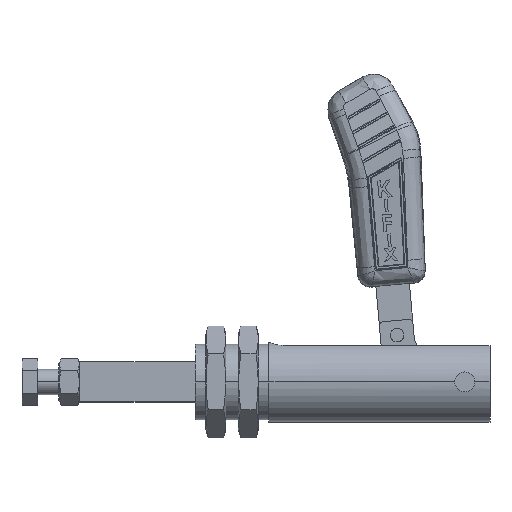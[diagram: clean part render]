
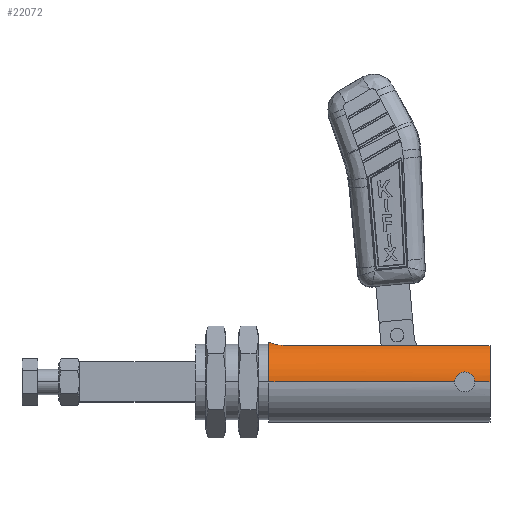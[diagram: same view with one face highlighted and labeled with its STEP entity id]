
A CAD part, top view. The second image highlights one B-rep face of the part: STEP entity #22072.
In plain terms, the highlighted cylindrical face has radius 19.05 mm (diameter 38.1 mm), a partial arc.
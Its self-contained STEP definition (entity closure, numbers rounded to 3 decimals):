
#20 = FACE_OUTER_BOUND ( 'NONE', #3455, .T. ) ;
#51 = CARTESIAN_POINT ( 'NONE',  ( 34.714, 18.732, -3.554 ) ) ;
#133 = CARTESIAN_POINT ( 'NONE',  ( 29.543, 17.405, -7.745 ) ) ;
#659 = B_SPLINE_CURVE_WITH_KNOTS ( 'NONE', 3,
 ( #3651, #51, #3816, #16805, #5683, #18680, #7548, #20524, #9419, #22415, #11287, #133, #13143, #2025, #15015, #3899 ),
 .UNSPECIFIED., .F., .F.,
 ( 4, 2, 2, 2, 2, 2, 2, 4 ),
 ( 0., 0.002, 0.004, 0.005, 0.006, 0.007, 0.009, 0.01 ),
 .UNSPECIFIED. ) ;
#682 = CARTESIAN_POINT ( 'NONE',  ( -56.707, 3.794, -18.669 ) ) ;
#765 = CARTESIAN_POINT ( 'NONE',  ( -61.179, 2.441, -18.894 ) ) ;
#993 = DIRECTION ( 'NONE',  ( 0., 0., 1. ) ) ;
#1128 = CIRCLE ( 'NONE', #18743, 19.05 ) ;
#1183 = LINE ( 'NONE', #22743, #15401 ) ;
#1243 = CYLINDRICAL_SURFACE ( 'NONE', #23967, 19.05 ) ;
#1316 = CARTESIAN_POINT ( 'NONE',  ( -70., 17.289, -8. ) ) ;
#1957 = CARTESIAN_POINT ( 'NONE',  ( -54., 0., -19.05 ) ) ;
#2025 = CARTESIAN_POINT ( 'NONE',  ( 28.326, 17.304, -7.968 ) ) ;
#2310 = LINE ( 'NONE', #19500, #11634 ) ;
#2334 = EDGE_CURVE ( 'NONE', #4530, #15433, #14905, .T. ) ;
#2480 = CARTESIAN_POINT ( 'NONE',  ( -54.026, 0.526, -19.044 ) ) ;
#2558 = CARTESIAN_POINT ( 'NONE',  ( -57.477, 3.974, -18.631 ) ) ;
#2652 = CARTESIAN_POINT ( 'NONE',  ( -61.595, 1.774, -18.969 ) ) ;
#3334 = CARTESIAN_POINT ( 'NONE',  ( -70., 0., 0. ) ) ;
#3455 = EDGE_LOOP ( 'NONE', ( #17742, #18444, #14123, #17258, #23441, #23804, #18719 ) ) ;
#3651 = CARTESIAN_POINT ( 'NONE',  ( 35., 18.845, -2.784 ) ) ;
#3816 = CARTESIAN_POINT ( 'NONE',  ( 34.322, 18.58, -4.255 ) ) ;
#3899 = CARTESIAN_POINT ( 'NONE',  ( 27.5, 17.289, -8. ) ) ;
#3900 = EDGE_CURVE ( 'NONE', #15433, #10300, #21560, .T. ) ;
#4337 = CARTESIAN_POINT ( 'NONE',  ( -54.205, 1.292, -19.008 ) ) ;
#4418 = CARTESIAN_POINT ( 'NONE',  ( -58.26, 4., -18.625 ) ) ;
#4494 = CARTESIAN_POINT ( 'NONE',  ( -61.871, 1.041, -19.023 ) ) ;
#4530 = VERTEX_POINT ( 'NONE', #5743 ) ;
#5212 = DIRECTION ( 'NONE',  ( 0., 0., 1. ) ) ;
#5683 = CARTESIAN_POINT ( 'NONE',  ( 33.31, 18.237, -5.514 ) ) ;
#5743 = CARTESIAN_POINT ( 'NONE',  ( 35., 18.845, -2.784 ) ) ;
#6230 = CARTESIAN_POINT ( 'NONE',  ( -54.529, 2.006, -18.945 ) ) ;
#6306 = CARTESIAN_POINT ( 'NONE',  ( -59.04, 3.871, -18.653 ) ) ;
#6389 = CARTESIAN_POINT ( 'NONE',  ( -62., 0.261, -19.05 ) ) ;
#6492 = CARTESIAN_POINT ( 'NONE',  ( -62., 0., -19.05 ) ) ;
#7008 = EDGE_CURVE ( 'NONE', #13570, #17572, #2310, .T. ) ;
#7323 = EDGE_CURVE ( 'NONE', #4530, #13570, #659, .T. ) ;
#7548 = CARTESIAN_POINT ( 'NONE',  ( 32.422, 17.973, -6.319 ) ) ;
#8080 = CARTESIAN_POINT ( 'NONE',  ( -54.988, 2.645, -18.866 ) ) ;
#8161 = CARTESIAN_POINT ( 'NONE',  ( -59.775, 3.594, -18.708 ) ) ;
#8853 = EDGE_CURVE ( 'NONE', #17572, #9091, #1128, .T. ) ;
#9091 = VERTEX_POINT ( 'NONE', #16979 ) ;
#9339 = CARTESIAN_POINT ( 'NONE',  ( 27.5, 17.289, -8. ) ) ;
#9419 = CARTESIAN_POINT ( 'NONE',  ( 31.412, 17.722, -6.99 ) ) ;
#9735 = DIRECTION ( 'NONE',  ( -1., 0., 0. ) ) ;
#9944 = CARTESIAN_POINT ( 'NONE',  ( -55.557, 3.178, -18.784 ) ) ;
#10027 = CARTESIAN_POINT ( 'NONE',  ( -60.44, 3.18, -18.783 ) ) ;
#10300 = VERTEX_POINT ( 'NONE', #1957 ) ;
#10905 = DIRECTION ( 'NONE',  ( -1., 0., 0. ) ) ;
#11287 = CARTESIAN_POINT ( 'NONE',  ( 30.316, 17.512, -7.499 ) ) ;
#11634 = VECTOR ( 'NONE', #21360, 1000. ) ;
#11647 = CARTESIAN_POINT ( 'NONE',  ( -70., 0., -19.05 ) ) ;
#11836 = CARTESIAN_POINT ( 'NONE',  ( -56.226, 3.595, -18.708 ) ) ;
#11918 = CARTESIAN_POINT ( 'NONE',  ( -61.015, 2.642, -18.867 ) ) ;
#13143 = CARTESIAN_POINT ( 'NONE',  ( 29.142, 17.362, -7.841 ) ) ;
#13570 = VERTEX_POINT ( 'NONE', #9339 ) ;
#13679 = CARTESIAN_POINT ( 'NONE',  ( -56.96, 3.871, -18.653 ) ) ;
#13734 = EDGE_CURVE ( 'NONE', #23338, #9091, #1183, .T. ) ;
#13762 = CARTESIAN_POINT ( 'NONE',  ( -61.469, 2.008, -18.945 ) ) ;
#13966 = CARTESIAN_POINT ( 'NONE',  ( -70., 0., 0. ) ) ;
#14123 = ORIENTED_EDGE ( 'NONE', *, *, #18074, .T. ) ;
#14905 = CIRCLE ( 'NONE', #23085, 19.05 ) ;
#15015 = CARTESIAN_POINT ( 'NONE',  ( 27.915, 17.289, -8. ) ) ;
#15184 = CARTESIAN_POINT ( 'NONE',  ( 35., 0., -19.05 ) ) ;
#15388 = CARTESIAN_POINT ( 'NONE',  ( -54., 0., -19.05 ) ) ;
#15401 = VECTOR ( 'NONE', #9735, 1000. ) ;
#15433 = VERTEX_POINT ( 'NONE', #15184 ) ;
#15471 = CARTESIAN_POINT ( 'NONE',  ( -54.128, 1.038, -19.023 ) ) ;
#15553 = CARTESIAN_POINT ( 'NONE',  ( -57.737, 4., -18.625 ) ) ;
#15629 = CARTESIAN_POINT ( 'NONE',  ( -61.795, 1.291, -19.008 ) ) ;
#15836 = DIRECTION ( 'NONE',  ( -1., 0., 0. ) ) ;
#16344 = DIRECTION ( 'NONE',  ( -1., 0., 0. ) ) ;
#16622 = VECTOR ( 'NONE', #17244, 1000. ) ;
#16805 = CARTESIAN_POINT ( 'NONE',  ( 33.582, 18.326, -5.213 ) ) ;
#16979 = CARTESIAN_POINT ( 'NONE',  ( -70., 0., -19.05 ) ) ;
#17244 = DIRECTION ( 'NONE',  ( -1., 0., 0. ) ) ;
#17258 = ORIENTED_EDGE ( 'NONE', *, *, #13734, .T. ) ;
#17343 = CARTESIAN_POINT ( 'NONE',  ( -54.407, 1.776, -18.969 ) ) ;
#17424 = CARTESIAN_POINT ( 'NONE',  ( -58.526, 3.974, -18.631 ) ) ;
#17506 = CARTESIAN_POINT ( 'NONE',  ( -61.974, 0.527, -19.044 ) ) ;
#17572 = VERTEX_POINT ( 'NONE', #1316 ) ;
#17742 = ORIENTED_EDGE ( 'NONE', *, *, #2334, .T. ) ;
#18074 = EDGE_CURVE ( 'NONE', #10300, #23338, #23328, .T. ) ;
#18444 = ORIENTED_EDGE ( 'NONE', *, *, #3900, .T. ) ;
#18680 = CARTESIAN_POINT ( 'NONE',  ( 32.731, 18.061, -6.066 ) ) ;
#18719 = ORIENTED_EDGE ( 'NONE', *, *, #7323, .F. ) ;
#18743 = AXIS2_PLACEMENT_3D ( 'NONE', #3334, #16344, #5212 ) ;
#19211 = CARTESIAN_POINT ( 'NONE',  ( -54.82, 2.44, -18.894 ) ) ;
#19297 = CARTESIAN_POINT ( 'NONE',  ( -59.289, 3.796, -18.668 ) ) ;
#19371 = CARTESIAN_POINT ( 'NONE',  ( -62., 0., -19.05 ) ) ;
#19500 = CARTESIAN_POINT ( 'NONE',  ( -70., 17.289, -8. ) ) ;
#20524 = CARTESIAN_POINT ( 'NONE',  ( 31.764, 17.804, -6.781 ) ) ;
#20996 = CARTESIAN_POINT ( 'NONE',  ( -54., 0.265, -19.05 ) ) ;
#21068 = CARTESIAN_POINT ( 'NONE',  ( -55.356, 3.013, -18.811 ) ) ;
#21144 = CARTESIAN_POINT ( 'NONE',  ( -60.008, 3.469, -18.732 ) ) ;
#21360 = DIRECTION ( 'NONE',  ( -1., 0., 0. ) ) ;
#21560 = LINE ( 'NONE', #11647, #16622 ) ;
#22027 = CARTESIAN_POINT ( 'NONE',  ( 35., 0., 0. ) ) ;
#22072 = ADVANCED_FACE ( 'NONE', ( #20 ), #1243, .T. ) ;
#22415 = CARTESIAN_POINT ( 'NONE',  ( 30.689, 17.577, -7.348 ) ) ;
#22743 = CARTESIAN_POINT ( 'NONE',  ( -70., 0., -19.05 ) ) ;
#22939 = CARTESIAN_POINT ( 'NONE',  ( -55.994, 3.471, -18.732 ) ) ;
#23023 = CARTESIAN_POINT ( 'NONE',  ( -60.643, 3.014, -18.811 ) ) ;
#23085 = AXIS2_PLACEMENT_3D ( 'NONE', #22027, #10905, #23889 ) ;
#23328 = B_SPLINE_CURVE_WITH_KNOTS ( 'NONE', 3,
 ( #15388, #20996, #2480, #15471, #4337, #17343, #6230, #19211, #8080, #21068, #9944, #22939, #11836, #682, #13679, #2558, #15553, #4418, #17424, #6306, #19297, #8161, #21144, #10027, #23023, #11918, #765, #13762, #2652, #15629, #4494, #17506, #6389, #19371 ),
 .UNSPECIFIED., .F., .F.,
 ( 4, 2, 2, 2, 2, 2, 2, 2, 2, 2, 2, 2, 2, 2, 2, 2, 4 ),
 ( 0., 0.001, 0.002, 0.002, 0.003, 0.004, 0.005, 0.005, 0.006, 0.007, 0.008, 0.009, 0.009, 0.01, 0.011, 0.012, 0.013 ),
 .UNSPECIFIED. ) ;
#23338 = VERTEX_POINT ( 'NONE', #6492 ) ;
#23441 = ORIENTED_EDGE ( 'NONE', *, *, #8853, .F. ) ;
#23804 = ORIENTED_EDGE ( 'NONE', *, *, #7008, .F. ) ;
#23889 = DIRECTION ( 'NONE',  ( 0., 0., 1. ) ) ;
#23967 = AXIS2_PLACEMENT_3D ( 'NONE', #13966, #15836, #993 ) ;
